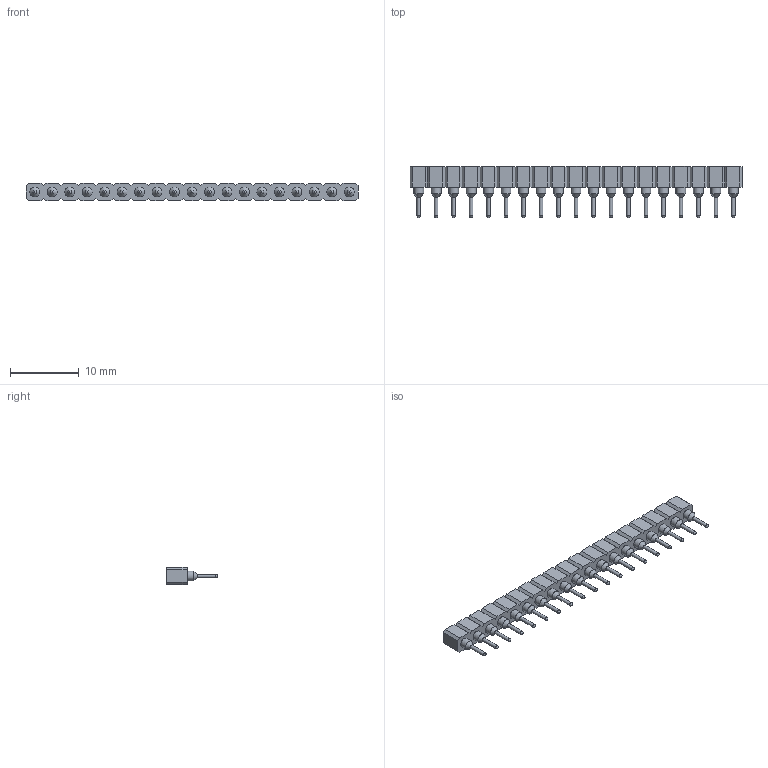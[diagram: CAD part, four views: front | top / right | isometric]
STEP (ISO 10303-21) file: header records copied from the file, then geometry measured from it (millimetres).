
FILE_DESCRIPTION(/* description */ (''),/* implementation_level */ '2;1');
FILE_NAME(/* name */ 'Header_female_1x19.step',/* time_stamp */ '2024-11-11T13:44:51+01:00',/* author */ (''),/* organization */ (''),/* preprocessor_version */ 'ST-DEVELOPER v20',/* originating_system */ 'Autodesk Translation Framework v13.20.0.188',/* authorisation */ '');
FILE_SCHEMA (('AUTOMOTIVE_DESIGN { 1 0 10303 214 3 1 1 }'));
Length unit declared in the file: millimetre
Products named in the file (3): Header Female; Pin; Plastic
Assembly tree (2 placements, depth 2):
  Header Female
    Pin
    Plastic
Bounding box: 48.26 x 7.43 x 2.54 mm (x, y, z)
Volume: 354.9 mm3; surface area: 1494.6 mm2
Topology: 20 solids, 20 shells, 327 faces, 728 edges, 460 vertices
Faces by surface type: plane 175, cylinder 76, cone 57, bspline 19
Full cylindrical faces by diameter (mm): 0.51 x19, 0.9 x19, 1.42 x38
Entity records: 9576 total; most frequent: CARTESIAN_POINT 2014, DIRECTION 1601, ORIENTED_EDGE 1456, EDGE_CURVE 728, AXIS2_PLACEMENT_3D 560, LINE 481, VECTOR 481, VERTEX_POINT 460
